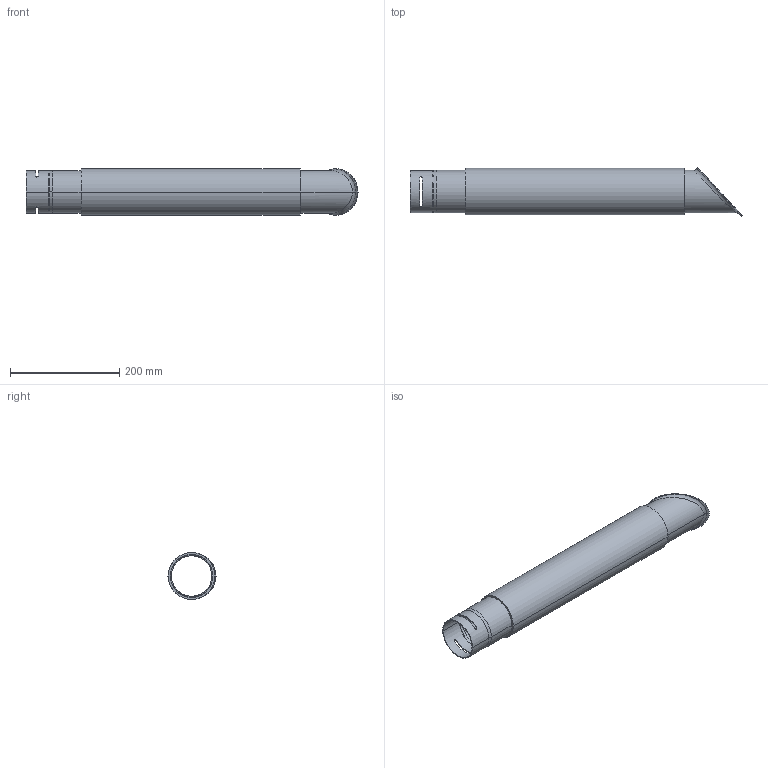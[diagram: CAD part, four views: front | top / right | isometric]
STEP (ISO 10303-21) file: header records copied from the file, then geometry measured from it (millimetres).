
FILE_DESCRIPTION((''),'2;1');
FILE_NAME('117214','2017-11-21T',('Tomas Bellgran'),(''),'CREO PARAMETRIC BY PTC INC, 2016130','CREO PARAMETRIC BY PTC INC, 2016130','');
FILE_SCHEMA(('AUTOMOTIVE_DESIGN { 1 0 10303 214 1 1 1 1 }'));
Length unit declared in the file: millimetre
Products named in the file (4): 102195_AF5; 102195-REF_AF5; 117213; 117214
Assembly tree (3 placements, depth 2):
  117214
    102195_AF5
    102195-REF_AF5
    117213
Bounding box: 606.72 x 87.9 x 85.4 mm (x, y, z)
Volume: 450403.3 mm3; surface area: 303239.2 mm2
Topology: 3 solids, 3 shells, 47 faces, 102 edges, 60 vertices
Faces by surface type: cylinder 20, bspline 14, plane 9, torus 4
Entity records: 4429 total; most frequent: CARTESIAN_POINT 1990, DIRECTION 206, ORIENTED_EDGE 204, PROPERTY_DEFINITION 182, REPRESENTATION 179, PROPERTY_DEFINITION_REPRESENTATION 179, DESCRIPTIVE_REPRESENTATION_ITEM 151, GENERAL_PROPERTY 147
